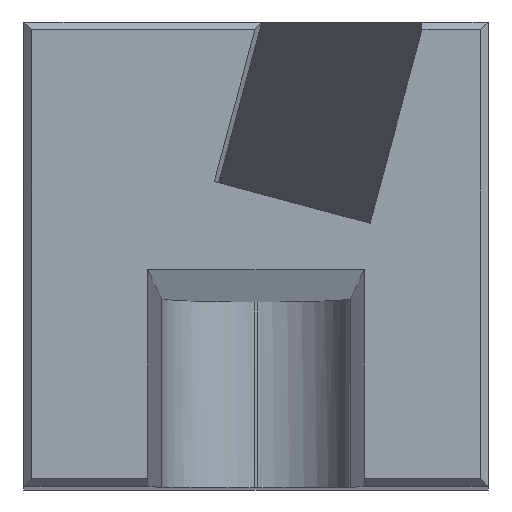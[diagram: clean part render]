
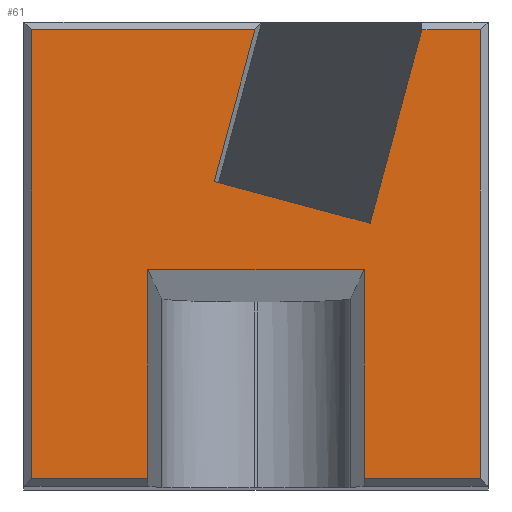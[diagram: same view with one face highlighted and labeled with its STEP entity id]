
A CAD part, top view. The second image highlights one B-rep face of the part: STEP entity #61.
In plain terms, the highlighted planar face has unit normal (0, 0, 1).
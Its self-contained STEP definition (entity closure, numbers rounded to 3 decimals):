
#2 = LINE ( 'NONE', #67, #382 ) ;
#14 = DIRECTION ( 'NONE',  ( 0., 1., 0. ) ) ;
#15 = LINE ( 'NONE', #479, #767 ) ;
#23 = ORIENTED_EDGE ( 'NONE', *, *, #279, .F. ) ;
#31 = CARTESIAN_POINT ( 'NONE',  ( 0., 0., 70. ) ) ;
#32 = LINE ( 'NONE', #195, #298 ) ;
#37 = VERTEX_POINT ( 'NONE', #280 ) ;
#42 = LINE ( 'NONE', #403, #829 ) ;
#47 = DIRECTION ( 'NONE',  ( 0., -1., 0. ) ) ;
#61 = ADVANCED_FACE ( 'NONE', ( #655 ), #445, .F. ) ;
#67 = CARTESIAN_POINT ( 'NONE',  ( 11.187, 8.495, 70. ) ) ;
#80 = VECTOR ( 'NONE', #204, 1000. ) ;
#95 = ORIENTED_EDGE ( 'NONE', *, *, #553, .T. ) ;
#102 = DIRECTION ( 'NONE',  ( -1., 0., 0. ) ) ;
#112 = DIRECTION ( 'NONE',  ( 0., 0., -1. ) ) ;
#136 = ORIENTED_EDGE ( 'NONE', *, *, #660, .T. ) ;
#145 = ORIENTED_EDGE ( 'NONE', *, *, #695, .F. ) ;
#147 = VERTEX_POINT ( 'NONE', #978 ) ;
#151 = LINE ( 'NONE', #421, #394 ) ;
#154 = VERTEX_POINT ( 'NONE', #988 ) ;
#169 = VERTEX_POINT ( 'NONE', #985 ) ;
#173 = CARTESIAN_POINT ( 'NONE',  ( 12.862, 14.75, 70. ) ) ;
#174 = CARTESIAN_POINT ( 'NONE',  ( 11., 7., 70. ) ) ;
#195 = CARTESIAN_POINT ( 'NONE',  ( 0.25, 0., 70. ) ) ;
#204 = DIRECTION ( 'NONE',  ( 1., 0., 0. ) ) ;
#218 = EDGE_CURVE ( 'NONE', #169, #728, #2, .T. ) ;
#246 = DIRECTION ( 'NONE',  ( 0., -1., 0. ) ) ;
#256 = VERTEX_POINT ( 'NONE', #937 ) ;
#274 = ORIENTED_EDGE ( 'NONE', *, *, #590, .T. ) ;
#278 = CARTESIAN_POINT ( 'NONE',  ( 0., 0.25, 70. ) ) ;
#279 = EDGE_CURVE ( 'NONE', #388, #154, #42, .T. ) ;
#280 = CARTESIAN_POINT ( 'NONE',  ( 6.15, 9.845, 70. ) ) ;
#284 = VERTEX_POINT ( 'NONE', #577 ) ;
#297 = VECTOR ( 'NONE', #620, 1000. ) ;
#298 = VECTOR ( 'NONE', #47, 1000. ) ;
#361 = EDGE_CURVE ( 'NONE', #626, #458, #807, .T. ) ;
#371 = ORIENTED_EDGE ( 'NONE', *, *, #483, .T. ) ;
#372 = CARTESIAN_POINT ( 'NONE',  ( 14.75, 14.75, 70. ) ) ;
#379 = EDGE_CURVE ( 'NONE', #37, #147, #852, .T. ) ;
#382 = VECTOR ( 'NONE', #787, 1000. ) ;
#388 = VERTEX_POINT ( 'NONE', #572 ) ;
#391 = AXIS2_PLACEMENT_3D ( 'NONE', #31, #112, #449 ) ;
#394 = VECTOR ( 'NONE', #938, 1000. ) ;
#403 = CARTESIAN_POINT ( 'NONE',  ( 4., 0., 70. ) ) ;
#413 = DIRECTION ( 'NONE',  ( 0., 1., 0. ) ) ;
#420 = CARTESIAN_POINT ( 'NONE',  ( 0., 0.25, 70. ) ) ;
#421 = CARTESIAN_POINT ( 'NONE',  ( 11.187, 8.495, 70. ) ) ;
#423 = VERTEX_POINT ( 'NONE', #174 ) ;
#445 = PLANE ( 'NONE',  #391 ) ;
#449 = DIRECTION ( 'NONE',  ( -1., 0., 0. ) ) ;
#453 = EDGE_CURVE ( 'NONE', #256, #284, #32, .T. ) ;
#458 = VERTEX_POINT ( 'NONE', #809 ) ;
#467 = ORIENTED_EDGE ( 'NONE', *, *, #719, .F. ) ;
#479 = CARTESIAN_POINT ( 'NONE',  ( 14.75, 0., 70. ) ) ;
#483 = EDGE_CURVE ( 'NONE', #284, #154, #705, .T. ) ;
#500 = CARTESIAN_POINT ( 'NONE',  ( 3.277, -0.878, 70. ) ) ;
#538 = VECTOR ( 'NONE', #14, 1000. ) ;
#548 = DIRECTION ( 'NONE',  ( -1., 0., 0. ) ) ;
#553 = EDGE_CURVE ( 'NONE', #945, #728, #792, .T. ) ;
#572 = CARTESIAN_POINT ( 'NONE',  ( 4., 7., 70. ) ) ;
#576 = ORIENTED_EDGE ( 'NONE', *, *, #218, .F. ) ;
#577 = CARTESIAN_POINT ( 'NONE',  ( 0.25, 0.25, 70. ) ) ;
#582 = VECTOR ( 'NONE', #548, 1000. ) ;
#586 = ORIENTED_EDGE ( 'NONE', *, *, #361, .T. ) ;
#590 = EDGE_CURVE ( 'NONE', #147, #256, #989, .T. ) ;
#620 = DIRECTION ( 'NONE',  ( -1., 0., 0. ) ) ;
#626 = VERTEX_POINT ( 'NONE', #1002 ) ;
#655 = FACE_OUTER_BOUND ( 'NONE', #857, .T. ) ;
#660 = EDGE_CURVE ( 'NONE', #458, #945, #15, .T. ) ;
#695 = EDGE_CURVE ( 'NONE', #37, #169, #151, .T. ) ;
#703 = CARTESIAN_POINT ( 'NONE',  ( 0., 14.75, 70. ) ) ;
#705 = LINE ( 'NONE', #278, #80 ) ;
#713 = VECTOR ( 'NONE', #102, 1000. ) ;
#719 = EDGE_CURVE ( 'NONE', #626, #423, #976, .T. ) ;
#727 = VECTOR ( 'NONE', #878, 1000. ) ;
#728 = VERTEX_POINT ( 'NONE', #173 ) ;
#767 = VECTOR ( 'NONE', #413, 1000. ) ;
#776 = ORIENTED_EDGE ( 'NONE', *, *, #453, .T. ) ;
#781 = LINE ( 'NONE', #799, #713 ) ;
#787 = DIRECTION ( 'NONE',  ( 0.259, 0.966, 0. ) ) ;
#792 = LINE ( 'NONE', #849, #297 ) ;
#799 = CARTESIAN_POINT ( 'NONE',  ( 4., 7., 70. ) ) ;
#807 = LINE ( 'NONE', #420, #727 ) ;
#809 = CARTESIAN_POINT ( 'NONE',  ( 14.75, 0.25, 70. ) ) ;
#829 = VECTOR ( 'NONE', #246, 1000. ) ;
#849 = CARTESIAN_POINT ( 'NONE',  ( 0., 14.75, 70. ) ) ;
#852 = LINE ( 'NONE', #500, #917 ) ;
#856 = ORIENTED_EDGE ( 'NONE', *, *, #379, .T. ) ;
#857 = EDGE_LOOP ( 'NONE', ( #371, #23, #980, #467, #586, #136, #95, #576, #145, #856, #274, #776 ) ) ;
#862 = EDGE_CURVE ( 'NONE', #423, #388, #781, .T. ) ;
#878 = DIRECTION ( 'NONE',  ( 1., 0., 0. ) ) ;
#917 = VECTOR ( 'NONE', #962, 1000. ) ;
#937 = CARTESIAN_POINT ( 'NONE',  ( 0.25, 14.75, 70. ) ) ;
#938 = DIRECTION ( 'NONE',  ( 0.966, -0.259, 0. ) ) ;
#940 = CARTESIAN_POINT ( 'NONE',  ( 11., 0., 70. ) ) ;
#945 = VERTEX_POINT ( 'NONE', #372 ) ;
#962 = DIRECTION ( 'NONE',  ( 0.259, 0.966, 0. ) ) ;
#976 = LINE ( 'NONE', #940, #538 ) ;
#978 = CARTESIAN_POINT ( 'NONE',  ( 7.464, 14.75, 70. ) ) ;
#980 = ORIENTED_EDGE ( 'NONE', *, *, #862, .F. ) ;
#985 = CARTESIAN_POINT ( 'NONE',  ( 11.187, 8.495, 70. ) ) ;
#988 = CARTESIAN_POINT ( 'NONE',  ( 4., 0.25, 70. ) ) ;
#989 = LINE ( 'NONE', #703, #582 ) ;
#1002 = CARTESIAN_POINT ( 'NONE',  ( 11., 0.25, 70. ) ) ;
